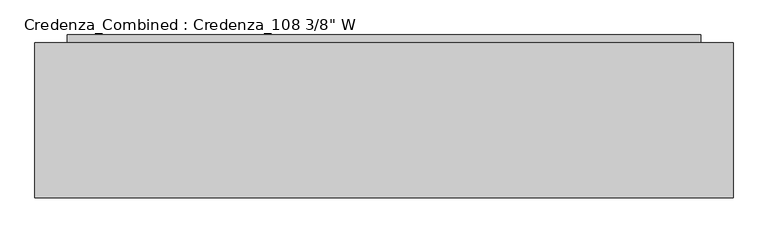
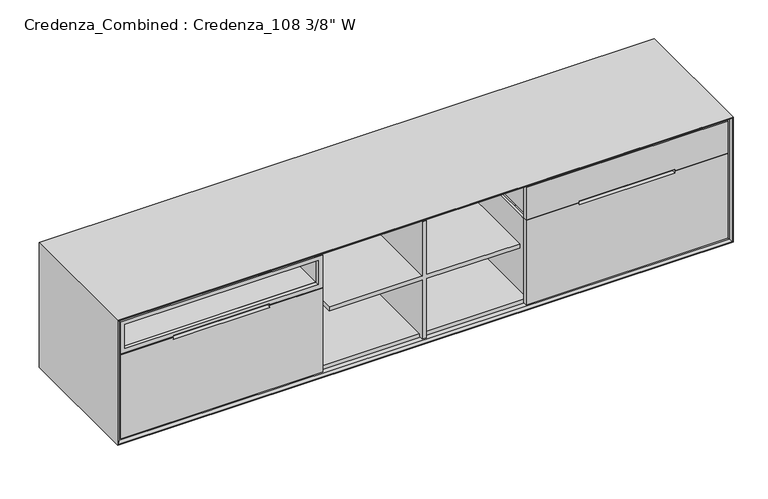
"""IFC4 building model written with IfcOpenShell, lengths in millimetres: furniture geometry."""

from ifc_helpers import new_model, si_unit, frame, origin, origin_with_axes, place, context, project, spatial, polyline, outline, extrude, faceted_brep, source, transform, mapped, element, save


def furniture_f5ed6201(model_context):
    return source(origin(), model_context, "Body", "SolidModel", [
        faceted_brep([(2717.8, 609.6, 478.63125), (1849.4375, 609.6, 478.63125), (1849.4375, 28.575, 478.63125), (2717.8, 28.575, 478.63125), (1862.1375, 596.9, 478.63125), (2703.5125, 596.9, 478.63125), (2703.5125, 41.275, 478.63125), (1862.1375, 41.275, 478.63125), (2717.8, 609.6, 105.56875), (1849.4375, 609.6, 105.56875), (1849.4375, 28.575, 105.56875), (2717.8, 28.575, 105.56875), (1862.1375, 596.9, 118.26875), (2703.5125, 596.9, 118.26875), (2703.5125, 41.275, 118.26875), (1862.1375, 41.275, 118.26875)], [[[0, 1, 2, 3], [4, 5, 6, 7]], [[1, 0, 8, 9]], [[2, 1, 9, 10]], [[3, 2, 10, 11]], [[8, 0, 3, 11]], [[5, 4, 12, 13]], [[6, 5, 13, 14]], [[7, 6, 14, 15]], [[4, 7, 15, 12]], [[13, 12, 15, 14]], [[8, 11, 10, 9]]]),
        faceted_brep([(2703.5125, 596.9, 519.90625), (1862.1375, 596.9, 519.90625), (1862.1375, 41.275, 519.90625), (2703.5125, 41.275, 519.90625), (2717.8, 609.6, 507.20625), (2717.8, 28.575, 507.20625), (1849.4375, 28.575, 507.20625), (1849.4375, 609.6, 507.20625), (1849.4375, 609.6, 634.20625), (2717.8, 609.6, 634.20625), (1849.4375, 28.575, 634.20625), (2717.8, 28.575, 634.20625), (1862.1375, 596.9, 634.20625), (2703.5125, 596.9, 634.20625), (2703.5125, 41.275, 634.20625), (1862.1375, 41.275, 634.20625)], [[[0, 1, 2, 3]], [[4, 5, 6, 7]], [[4, 7, 8, 9]], [[8, 7, 6, 10]], [[10, 6, 5, 11]], [[11, 5, 4, 9]], [[9, 8, 10, 11], [12, 13, 14, 15]], [[13, 12, 1, 0]], [[14, 13, 0, 3]], [[15, 14, 3, 2]], [[12, 15, 2, 1]]]),
        extrude(outline(polyline([(504.03125, 1831.975), (105.56875, 1831.975), (105.56875, 2735.2625), (504.03125, 2735.2625), (504.03125, 2499.51875), (494.7030946, 2499.51875), (494.7030946, 2067.71875), (504.03125, 2067.71875), (504.03125, 1831.975)])), frame((0.0, 9.525, 0.0), z_axis=(0.0, 1.0, 0.0), x_axis=(0.0, 0.0, 1.0)), (0.0, 0.0, 1.0), 19.05),
        extrude(outline(polyline([(659.60625, 2735.2625), (659.60625, 1831.975), (507.20625, 1831.975), (507.20625, 2067.71875), (513.3594054, 2067.71875), (513.3594054, 2499.51875), (507.20625, 2499.51875), (507.20625, 2735.2625), (659.60625, 2735.2625)])), frame((0.0, 9.525, 0.0), z_axis=(0.0, 1.0, 0.0), x_axis=(0.0, 0.0, 1.0)), (0.0, 0.0, 1.0), 19.05),
        extrude(outline(polyline([(659.60625, 1386.68125), (659.60625, 1367.63125), (404.01875, 1367.63125), (404.01875, 950.9125), (384.96875, 950.9125), (384.96875, 1367.63125), (105.56875, 1367.63125), (105.56875, 1386.68125), (384.96875, 1386.68125), (384.96875, 1803.4), (404.01875, 1803.4), (404.01875, 1386.68125), (659.60625, 1386.68125)])), frame((0.0, 9.525, 0.0), z_axis=(0.0, 1.0, 0.0), x_axis=(0.0, 0.0, 1.0)), (0.0, 0.0, 1.0), 600.075),
        extrude(outline(polyline([(2625.725, 609.6), (2625.725, 241.3), (127.0, 241.3), (127.0, 609.6), (2625.725, 609.6)])), origin_with_axes(), (0.0, 0.0, 1.0), 87.3125),
        extrude(outline(polyline([(2625.725, 641.35), (2625.725, 609.6), (127.0, 609.6), (127.0, 641.35), (2625.725, 641.35)])), origin_with_axes(), (0.0, 0.0, 1.0), 647.7),
        extrude(outline(polyline([(665.1625, 2740.025), (665.1625, 12.7), (100.0125, 12.7), (100.0125, 2740.025), (665.1625, 2740.025)]), holes=[polyline([(646.1125, 31.75), (646.1125, 2720.975), (119.0625, 2720.975), (119.0625, 31.75), (646.1125, 31.75)])]), frame((0.0, 31.75, 0.0), z_axis=(0.0, 1.0, 0.0), x_axis=(0.0, 0.0, 1.0)), (0.0, 0.0, 1.0), 577.85),
        faceted_brep([(2740.025, 9.525, 665.1625), (2740.025, 609.6, 665.1625), (2740.025, 609.6, 100.0125), (2740.025, 9.525, 100.0125), (2749.55, 0.0, 674.6875), (2749.55, 0.0, 90.4875), (2752.725, 609.6, 677.8625), (2752.725, 0.0, 677.8625), (2752.725, 0.0, 87.3125), (2752.725, 609.6, 87.3125), (12.7, 609.6, 100.0125), (12.7, 9.525, 100.0125), (3.175, 0.0, 90.4875), (0.0, 0.0, 87.3125), (0.0, 609.6, 87.3125), (12.7, 609.6, 665.1625), (12.7, 9.525, 665.1625), (3.175, 0.0, 674.6875), (0.0, 0.0, 677.8625), (0.0, 609.6, 677.8625)], [[[0, 1, 2, 3]], [[4, 0, 3, 5]], [[6, 7, 8, 9]], [[3, 2, 10, 11]], [[5, 3, 11, 12]], [[9, 8, 13, 14]], [[11, 10, 15, 16]], [[12, 11, 16, 17]], [[14, 13, 18, 19]], [[9, 14, 19, 6], [1, 15, 10, 2]], [[16, 15, 1, 0]], [[17, 16, 0, 4]], [[7, 18, 13, 8], [5, 12, 17, 4]], [[19, 18, 7, 6]]]),
        extrude(outline(polyline([(904.875, 609.6), (904.875, 28.575), (36.5125, 28.575), (36.5125, 609.6), (904.875, 609.6)]), holes=[polyline([(49.2125, 596.9), (49.2125, 41.275), (890.5875, 41.275), (890.5875, 596.9), (49.2125, 596.9)])]), frame((0.0, 0.0, 118.26875), z_axis=(0.0, 0.0, 1.0), x_axis=(1.0, 0.0, 0.0)), (0.0, 0.0, 1.0), 360.3625),
        extrude(outline(polyline([(642.14375, 904.875), (642.14375, 36.5125), (524.66875, 36.5125), (524.66875, 904.875), (642.14375, 904.875)]), holes=[polyline([(640.55625, 903.2875), (526.25625, 903.2875), (526.25625, 38.1), (640.55625, 38.1), (640.55625, 903.2875)])]), frame((0.0, 28.575, 0.0), z_axis=(0.0, 1.0, 0.0), x_axis=(0.0, 0.0, 1.0)), (0.0, 0.0, 1.0), 581.025),
        extrude(outline(polyline([(504.03125, 19.05), (105.56875, 19.05), (105.56875, 922.3375), (504.03125, 922.3375), (504.03125, 686.59375), (494.7030946, 686.59375), (494.7030946, 254.79375), (504.03125, 254.79375), (504.03125, 19.05)])), frame((0.0, 9.525, 0.0), z_axis=(0.0, 1.0, 0.0), x_axis=(0.0, 0.0, 1.0)), (0.0, 0.0, 1.0), 19.05),
        extrude(outline(polyline([(659.60625, 922.3375), (659.60625, 19.05), (507.20625, 19.05), (507.20625, 254.79375), (513.3594054, 254.79375), (513.3594054, 686.59375), (507.20625, 686.59375), (507.20625, 922.3375), (659.60625, 922.3375)]), holes=[polyline([(640.55625, 38.1), (640.55625, 903.2875), (526.25625, 903.2875), (526.25625, 38.1), (640.55625, 38.1)])]), frame((0.0, 9.525, 0.0), z_axis=(0.0, 1.0, 0.0), x_axis=(0.0, 0.0, 1.0)), (0.0, 0.0, 1.0), 19.05),
    ])


if __name__ == "__main__":
    model = new_model("IFC4")
    model_context = context("Model", 3, world=origin())
    ifc_project = project(units=[si_unit("LENGTHUNIT", "METRE", prefix="MILLI")], contexts=[model_context])
    site = spatial("IfcSite", under=ifc_project)
    building = spatial("IfcBuilding", under=site)
    placement = place(None, origin())
    furniture_shape = furniture_f5ed6201(model_context)
    element("IfcFurniture", 1, ObjectType="Credenza_Combined : Credenza_108 3/8\" W", at=placement, inside=building, context=model_context, shape_type="MappedRepresentation", body=[
        mapped(furniture_shape, transform((0.0, 0.0, 0.0), x_axis=(1.0, 0.0, 0.0), y_axis=(0.0, 1.0, 0.0), z_axis=(0.0, 0.0, 1.0))),
    ])
    save(model, "model.ifc")
